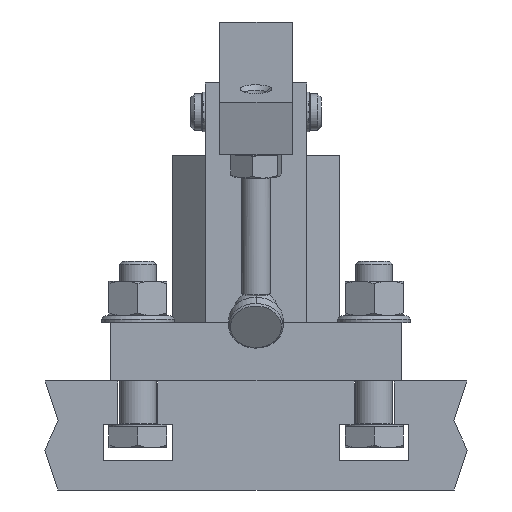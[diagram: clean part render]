
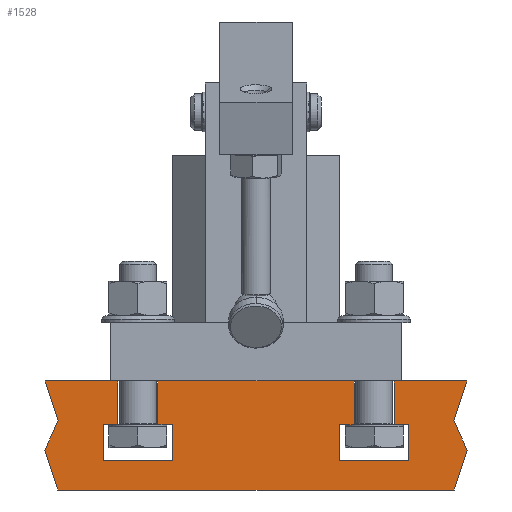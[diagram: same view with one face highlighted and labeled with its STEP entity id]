
A CAD part, front view. The second image highlights one B-rep face of the part: STEP entity #1528.
In plain terms, the highlighted planar face has unit normal (0, -1, 0).
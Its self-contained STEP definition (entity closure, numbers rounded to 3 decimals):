
#1495 = VERTEX_POINT('',#1496);
#1496 = CARTESIAN_POINT('',(54.561,-80.,0.));
#1502 = EDGE_CURVE('',#1495,#1503,#1505,.T.);
#1503 = VERTEX_POINT('',#1504);
#1504 = CARTESIAN_POINT('',(-54.561,-80.,0.));
#1505 = LINE('',#1506,#1507);
#1506 = CARTESIAN_POINT('',(0.,-80.,0.));
#1507 = VECTOR('',#1508,1.);
#1508 = DIRECTION('',(-1.,0.,0.));
#1528 = ADVANCED_FACE('',(#1529),#1714,.F.);
#1529 = FACE_BOUND('',#1530,.T.);
#1530 = EDGE_LOOP('',(#1531,#1539,#1547,#1555,#1563,#1571,#1579,#1587,
    #1595,#1603,#1611,#1619,#1627,#1635,#1643,#1651,#1659,#1667,#1675,
    #1683,#1691,#1699,#1707,#1713));
#1531 = ORIENTED_EDGE('',*,*,#1532,.F.);
#1532 = EDGE_CURVE('',#1533,#1495,#1535,.T.);
#1533 = VERTEX_POINT('',#1534);
#1534 = CARTESIAN_POINT('',(58.135,-80.,11.));
#1535 = LINE('',#1536,#1537);
#1536 = CARTESIAN_POINT('',(58.135,-80.,11.));
#1537 = VECTOR('',#1538,1.);
#1538 = DIRECTION('',(-0.309,0.,-0.951));
#1539 = ORIENTED_EDGE('',*,*,#1540,.F.);
#1540 = EDGE_CURVE('',#1541,#1533,#1543,.T.);
#1541 = VERTEX_POINT('',#1542);
#1542 = CARTESIAN_POINT('',(54.426,-80.,19.));
#1543 = LINE('',#1544,#1545);
#1544 = CARTESIAN_POINT('',(54.426,-80.,19.));
#1545 = VECTOR('',#1546,1.);
#1546 = DIRECTION('',(0.421,0.,-0.907));
#1547 = ORIENTED_EDGE('',*,*,#1548,.F.);
#1548 = EDGE_CURVE('',#1549,#1541,#1551,.T.);
#1549 = VERTEX_POINT('',#1550);
#1550 = CARTESIAN_POINT('',(58.,-80.,30.));
#1551 = LINE('',#1552,#1553);
#1552 = CARTESIAN_POINT('',(58.,-80.,30.));
#1553 = VECTOR('',#1554,1.);
#1554 = DIRECTION('',(-0.309,0.,-0.951));
#1555 = ORIENTED_EDGE('',*,*,#1556,.F.);
#1556 = EDGE_CURVE('',#1557,#1549,#1559,.T.);
#1557 = VERTEX_POINT('',#1558);
#1558 = CARTESIAN_POINT('',(38.,-80.,30.));
#1559 = LINE('',#1560,#1561);
#1560 = CARTESIAN_POINT('',(0.,-80.,30.));
#1561 = VECTOR('',#1562,1.);
#1562 = DIRECTION('',(1.,0.,0.));
#1563 = ORIENTED_EDGE('',*,*,#1564,.F.);
#1564 = EDGE_CURVE('',#1565,#1557,#1567,.T.);
#1565 = VERTEX_POINT('',#1566);
#1566 = CARTESIAN_POINT('',(38.,-80.,18.));
#1567 = LINE('',#1568,#1569);
#1568 = CARTESIAN_POINT('',(38.,-80.,0.));
#1569 = VECTOR('',#1570,1.);
#1570 = DIRECTION('',(0.,0.,1.));
#1571 = ORIENTED_EDGE('',*,*,#1572,.F.);
#1572 = EDGE_CURVE('',#1573,#1565,#1575,.T.);
#1573 = VERTEX_POINT('',#1574);
#1574 = CARTESIAN_POINT('',(42.,-80.,18.));
#1575 = LINE('',#1576,#1577);
#1576 = CARTESIAN_POINT('',(0.,-80.,18.));
#1577 = VECTOR('',#1578,1.);
#1578 = DIRECTION('',(-1.,0.,0.));
#1579 = ORIENTED_EDGE('',*,*,#1580,.F.);
#1580 = EDGE_CURVE('',#1581,#1573,#1583,.T.);
#1581 = VERTEX_POINT('',#1582);
#1582 = CARTESIAN_POINT('',(42.,-80.,8.));
#1583 = LINE('',#1584,#1585);
#1584 = CARTESIAN_POINT('',(42.,-80.,0.));
#1585 = VECTOR('',#1586,1.);
#1586 = DIRECTION('',(0.,0.,1.));
#1587 = ORIENTED_EDGE('',*,*,#1588,.F.);
#1588 = EDGE_CURVE('',#1589,#1581,#1591,.T.);
#1589 = VERTEX_POINT('',#1590);
#1590 = CARTESIAN_POINT('',(23.,-80.,8.));
#1591 = LINE('',#1592,#1593);
#1592 = CARTESIAN_POINT('',(0.,-80.,8.));
#1593 = VECTOR('',#1594,1.);
#1594 = DIRECTION('',(1.,0.,0.));
#1595 = ORIENTED_EDGE('',*,*,#1596,.F.);
#1596 = EDGE_CURVE('',#1597,#1589,#1599,.T.);
#1597 = VERTEX_POINT('',#1598);
#1598 = CARTESIAN_POINT('',(23.,-80.,18.));
#1599 = LINE('',#1600,#1601);
#1600 = CARTESIAN_POINT('',(23.,-80.,0.));
#1601 = VECTOR('',#1602,1.);
#1602 = DIRECTION('',(0.,0.,-1.));
#1603 = ORIENTED_EDGE('',*,*,#1604,.F.);
#1604 = EDGE_CURVE('',#1605,#1597,#1607,.T.);
#1605 = VERTEX_POINT('',#1606);
#1606 = CARTESIAN_POINT('',(27.,-80.,18.));
#1607 = LINE('',#1608,#1609);
#1608 = CARTESIAN_POINT('',(0.,-80.,18.));
#1609 = VECTOR('',#1610,1.);
#1610 = DIRECTION('',(-1.,0.,0.));
#1611 = ORIENTED_EDGE('',*,*,#1612,.F.);
#1612 = EDGE_CURVE('',#1613,#1605,#1615,.T.);
#1613 = VERTEX_POINT('',#1614);
#1614 = CARTESIAN_POINT('',(27.,-80.,30.));
#1615 = LINE('',#1616,#1617);
#1616 = CARTESIAN_POINT('',(27.,-80.,0.));
#1617 = VECTOR('',#1618,1.);
#1618 = DIRECTION('',(0.,0.,-1.));
#1619 = ORIENTED_EDGE('',*,*,#1620,.F.);
#1620 = EDGE_CURVE('',#1621,#1613,#1623,.T.);
#1621 = VERTEX_POINT('',#1622);
#1622 = CARTESIAN_POINT('',(-27.,-80.,30.));
#1623 = LINE('',#1624,#1625);
#1624 = CARTESIAN_POINT('',(0.,-80.,30.));
#1625 = VECTOR('',#1626,1.);
#1626 = DIRECTION('',(1.,0.,0.));
#1627 = ORIENTED_EDGE('',*,*,#1628,.F.);
#1628 = EDGE_CURVE('',#1629,#1621,#1631,.T.);
#1629 = VERTEX_POINT('',#1630);
#1630 = CARTESIAN_POINT('',(-27.,-80.,18.));
#1631 = LINE('',#1632,#1633);
#1632 = CARTESIAN_POINT('',(-27.,-80.,0.));
#1633 = VECTOR('',#1634,1.);
#1634 = DIRECTION('',(0.,0.,1.));
#1635 = ORIENTED_EDGE('',*,*,#1636,.F.);
#1636 = EDGE_CURVE('',#1637,#1629,#1639,.T.);
#1637 = VERTEX_POINT('',#1638);
#1638 = CARTESIAN_POINT('',(-23.,-80.,18.));
#1639 = LINE('',#1640,#1641);
#1640 = CARTESIAN_POINT('',(0.,-80.,18.));
#1641 = VECTOR('',#1642,1.);
#1642 = DIRECTION('',(-1.,0.,0.));
#1643 = ORIENTED_EDGE('',*,*,#1644,.F.);
#1644 = EDGE_CURVE('',#1645,#1637,#1647,.T.);
#1645 = VERTEX_POINT('',#1646);
#1646 = CARTESIAN_POINT('',(-23.,-80.,8.));
#1647 = LINE('',#1648,#1649);
#1648 = CARTESIAN_POINT('',(-23.,-80.,0.));
#1649 = VECTOR('',#1650,1.);
#1650 = DIRECTION('',(0.,0.,1.));
#1651 = ORIENTED_EDGE('',*,*,#1652,.F.);
#1652 = EDGE_CURVE('',#1653,#1645,#1655,.T.);
#1653 = VERTEX_POINT('',#1654);
#1654 = CARTESIAN_POINT('',(-42.,-80.,8.));
#1655 = LINE('',#1656,#1657);
#1656 = CARTESIAN_POINT('',(0.,-80.,8.));
#1657 = VECTOR('',#1658,1.);
#1658 = DIRECTION('',(1.,0.,0.));
#1659 = ORIENTED_EDGE('',*,*,#1660,.F.);
#1660 = EDGE_CURVE('',#1661,#1653,#1663,.T.);
#1661 = VERTEX_POINT('',#1662);
#1662 = CARTESIAN_POINT('',(-42.,-80.,18.));
#1663 = LINE('',#1664,#1665);
#1664 = CARTESIAN_POINT('',(-42.,-80.,0.));
#1665 = VECTOR('',#1666,1.);
#1666 = DIRECTION('',(0.,0.,-1.));
#1667 = ORIENTED_EDGE('',*,*,#1668,.F.);
#1668 = EDGE_CURVE('',#1669,#1661,#1671,.T.);
#1669 = VERTEX_POINT('',#1670);
#1670 = CARTESIAN_POINT('',(-38.,-80.,18.));
#1671 = LINE('',#1672,#1673);
#1672 = CARTESIAN_POINT('',(0.,-80.,18.));
#1673 = VECTOR('',#1674,1.);
#1674 = DIRECTION('',(-1.,0.,0.));
#1675 = ORIENTED_EDGE('',*,*,#1676,.F.);
#1676 = EDGE_CURVE('',#1677,#1669,#1679,.T.);
#1677 = VERTEX_POINT('',#1678);
#1678 = CARTESIAN_POINT('',(-38.,-80.,30.));
#1679 = LINE('',#1680,#1681);
#1680 = CARTESIAN_POINT('',(-38.,-80.,0.));
#1681 = VECTOR('',#1682,1.);
#1682 = DIRECTION('',(0.,0.,-1.));
#1683 = ORIENTED_EDGE('',*,*,#1684,.F.);
#1684 = EDGE_CURVE('',#1685,#1677,#1687,.T.);
#1685 = VERTEX_POINT('',#1686);
#1686 = CARTESIAN_POINT('',(-58.,-80.,30.));
#1687 = LINE('',#1688,#1689);
#1688 = CARTESIAN_POINT('',(0.,-80.,30.));
#1689 = VECTOR('',#1690,1.);
#1690 = DIRECTION('',(1.,0.,0.));
#1691 = ORIENTED_EDGE('',*,*,#1692,.F.);
#1692 = EDGE_CURVE('',#1693,#1685,#1695,.T.);
#1693 = VERTEX_POINT('',#1694);
#1694 = CARTESIAN_POINT('',(-54.426,-80.,19.));
#1695 = LINE('',#1696,#1697);
#1696 = CARTESIAN_POINT('',(-54.426,-80.,19.));
#1697 = VECTOR('',#1698,1.);
#1698 = DIRECTION('',(-0.309,0.,0.951));
#1699 = ORIENTED_EDGE('',*,*,#1700,.F.);
#1700 = EDGE_CURVE('',#1701,#1693,#1703,.T.);
#1701 = VERTEX_POINT('',#1702);
#1702 = CARTESIAN_POINT('',(-58.135,-80.,11.));
#1703 = LINE('',#1704,#1705);
#1704 = CARTESIAN_POINT('',(-58.135,-80.,11.));
#1705 = VECTOR('',#1706,1.);
#1706 = DIRECTION('',(0.421,0.,0.907));
#1707 = ORIENTED_EDGE('',*,*,#1708,.F.);
#1708 = EDGE_CURVE('',#1503,#1701,#1709,.T.);
#1709 = LINE('',#1710,#1711);
#1710 = CARTESIAN_POINT('',(-54.561,-80.,0.));
#1711 = VECTOR('',#1712,1.);
#1712 = DIRECTION('',(-0.309,0.,0.951));
#1713 = ORIENTED_EDGE('',*,*,#1502,.F.);
#1714 = PLANE('',#1715);
#1715 = AXIS2_PLACEMENT_3D('',#1716,#1717,#1718);
#1716 = CARTESIAN_POINT('',(0.,-80.,0.));
#1717 = DIRECTION('',(0.,1.,0.));
#1718 = DIRECTION('',(0.,0.,1.));
